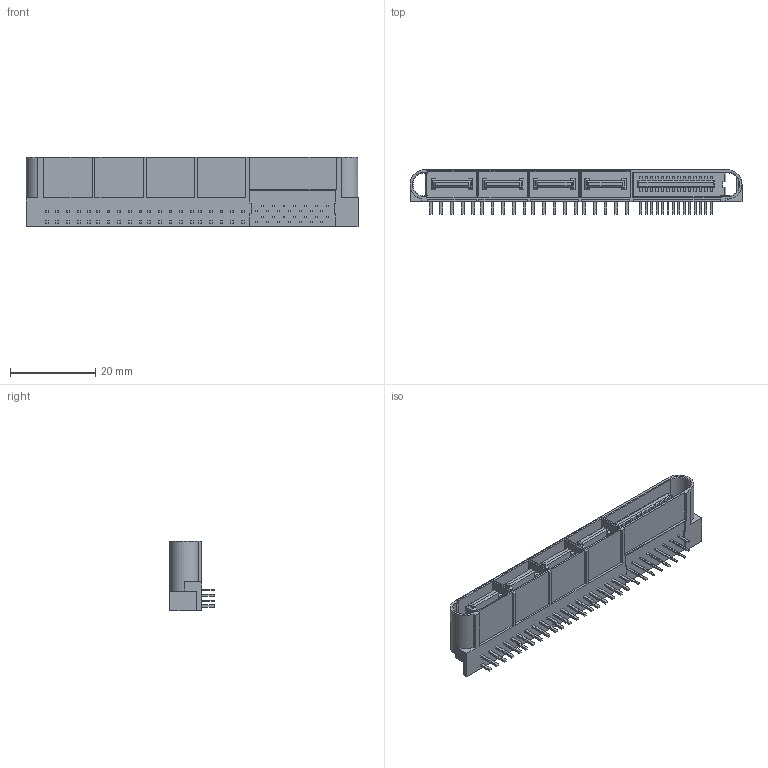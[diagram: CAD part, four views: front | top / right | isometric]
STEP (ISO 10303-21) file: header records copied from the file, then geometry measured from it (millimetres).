
FILE_DESCRIPTION((''),'2;1');
FILE_NAME('459858253','2020-10-28T',('me'),(''),'PRO/ENGINEER BY PARAMETRIC TECHNOLOGY CORPORATION, 2016010','PRO/ENGINEER BY PARAMETRIC TECHNOLOGY CORPORATION, 2016010','');
FILE_SCHEMA(('CONFIG_CONTROL_DESIGN'));
Length unit declared in the file: millimetre
Products named in the file (1): 459858253
Bounding box: 77.82 x 10.39 x 16.3 mm (x, y, z)
Volume: 4848.9 mm3; surface area: 7754.4 mm2
Topology: 1 solids, 1 shells, 1141 faces, 3273 edges, 2208 vertices
Faces by surface type: plane 1077, cylinder 62, cone 2
Entity records: 36766 total; most frequent: CARTESIAN_POINT 6501, ORIENTED_EDGE 6274, DIRECTION 5875, EDGE_CURVE 3137, VECTOR 2947, LINE 2947, VERTEX_POINT 2072, AXIS2_PLACEMENT_3D 1464
